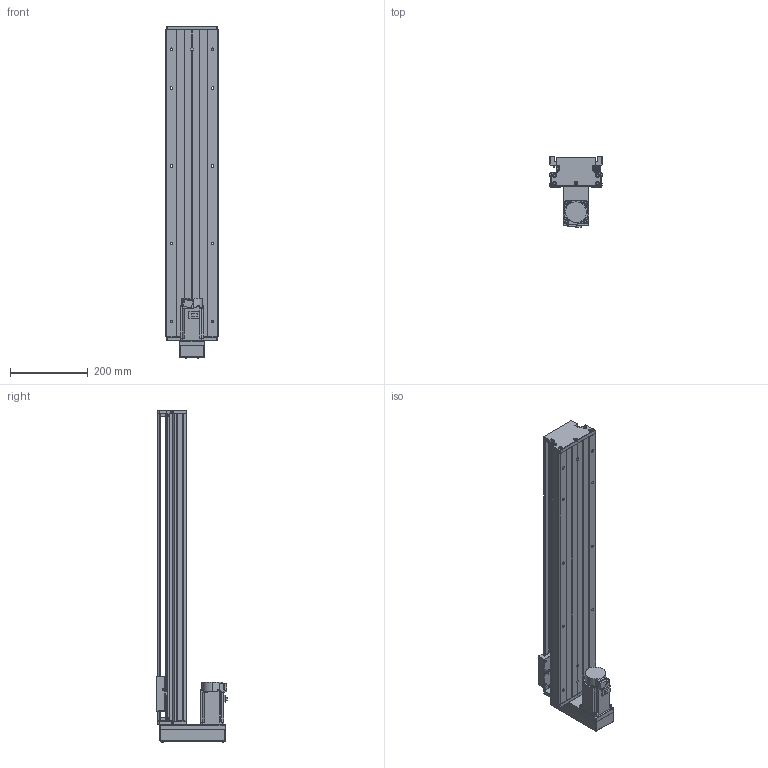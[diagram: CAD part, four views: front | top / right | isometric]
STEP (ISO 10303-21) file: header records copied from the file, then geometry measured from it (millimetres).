
FILE_DESCRIPTION (( 'STEP AP203' ), '1' );
FILE_NAME ('KTH130-650-BM-M40-C4.step', '2023-06-30T04:05:25', ( '微软用户' ), ( '微软中国' ), 'SwSTEP 2.0', 'SolidWorks 2020', '' );
FILE_SCHEMA (( 'CONFIG_CONTROL_DESIGN' ));
Length unit declared in the file: millimetre
Products named in the file (19): GB1155-6X6; GBT77-2000 M3×3; KTH130-650-BM-M40-C4; GBT70.1 M5℅16; す晦芛蹟隊 M3℅5; GBT 70.2-M3¡Á5_M3¡Á6; GBT 70.3-M3℅8; GTH14-001_650; CTHA60-017; HG-KN43J-S100; KTH130-002_KTH130-002; EE_SX911P_R; GBT 70.2-M4¡Á35_M4¡Á35; KTH130-004; CTHA60-016; GTH14-015-2_CTHA86-015-2; KTH130-005; GBT 70.1-M3℅5; GTH14-033
Assembly tree (53 placements, depth 2):
  KTH130-650-BM-M40-C4
    GTH14-001_650
    KTH130-002_KTH130-002
    KTH130-004
    KTH130-005
    GB1155-6X6  x2
    GBT70.1 M5℅16  x10
    GBT 70.2-M3¡Á5_M3¡Á6  x4
    CTHA60-017  x3
    EE_SX911P_R  x3
    CTHA60-016  x2
    GBT 70.1-M3℅5  x6
    GBT77-2000 M3×3  x6
    す晦芛蹟隊 M3℅5  x2
    GBT 70.3-M3℅8  x4
    HG-KN43J-S100
    GBT 70.2-M4¡Á35_M4¡Á35  x4
    GTH14-015-2_CTHA86-015-2
    GTH14-033
Bounding box: 135 x 181.8 x 854.2 mm (x, y, z)
Volume: 4897709.1 mm3; surface area: 802771.9 mm2
Topology: 56 solids, 56 shells, 2223 faces, 5366 edges, 3342 vertices
Faces by surface type: plane 1197, cylinder 612, cone 290, torus 100, sphere 24
Entity records: 40558 total; most frequent: CARTESIAN_POINT 8634, DIRECTION 6039, ORIENTED_EDGE 5932, EDGE_CURVE 2966, AXIS2_PLACEMENT_3D 2078, VERTEX_POINT 1895, VECTOR 1883, LINE 1883
